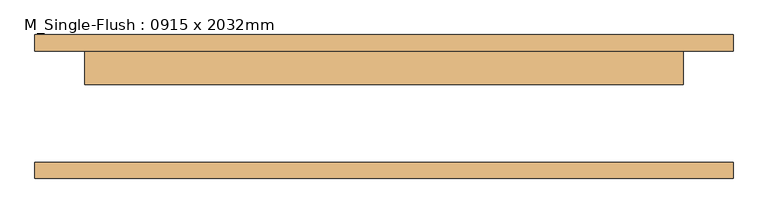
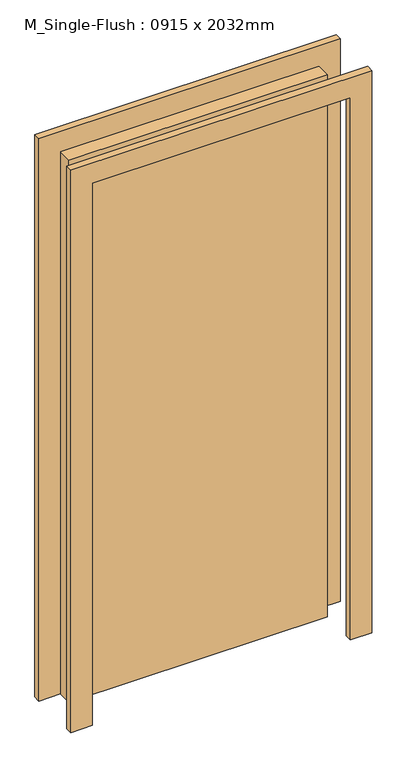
"""IFC4 building model written with IfcOpenShell, lengths in millimetres: door geometry, M_Single-Flush : 0915 x 2032mm."""

import ifcopenshell
import ifcopenshell.guid

model = None  # the IFC model being written
_history = None  # IfcOwnerHistory: only IFC2X3 demands one
_inside = {}  # id of a spatial element -> (the spatial element, [elements in it])
_under = {}  # id of a project, library or spatial element -> (it, [spatial elements below it])
_declared = {}  # id of a project -> (the project, [libraries it declares])
_typed = {}  # id of a type object -> (the type object, [elements of that type])
_made_of = {}  # id of a material, layer set ... -> (it, [elements and type objects made of it])


def new_model(schema):
    """Start an empty IFC model of exactly this schema.

    Asked for "IFC4X3", IfcOpenShell would pick the latest addendum, in which some entities
    have other attributes; the version numbers below select the first issue.
    IFC2X3 requires an IfcOwnerHistory on every rooted entity: one is made here for all.
    """
    global model, _history
    if schema == "IFC4X3":
        model = ifcopenshell.file(schema_version=(4, 3, 0, 0))
    else:
        model = ifcopenshell.file(schema=schema)
    _inside.clear()
    _under.clear()
    _declared.clear()
    _typed.clear()
    _made_of.clear()
    _history = None
    if model.schema == "IFC2X3":
        org = make("IfcOrganization", Name="unknown")
        user = make(
            "IfcPersonAndOrganization",
            ThePerson=make("IfcPerson", FamilyName="unknown"),
            TheOrganization=org,
        )
        app = make(
            "IfcApplication",
            ApplicationDeveloper=org,
            Version="unknown",
            ApplicationFullName="unknown",
            ApplicationIdentifier="unknown",
        )
        _history = make(
            "IfcOwnerHistory",
            OwningUser=user,
            OwningApplication=app,
            ChangeAction="ADDED",
            CreationDate=0,
        )
    return model


def make(cls, **values):
    """One entity of the class cls with the attributes given. An attribute that is None is left unset."""
    return model.create_entity(
        cls, **{name: value for name, value in values.items() if value is not None}
    )


def rooted(cls, **values):
    """An entity with a GlobalId (a new one), such as an element, a storey or a relation."""
    return make(cls, GlobalId=ifcopenshell.guid.new(), OwnerHistory=_history, **values)


def si_unit(unit_type, name, prefix=None):
    """IfcSIUnit, for example si_unit("LENGTHUNIT", "METRE", prefix="MILLI")."""
    return make("IfcSIUnit", UnitType=unit_type, Prefix=prefix, Name=name)


def assignment(units):
    """IfcUnitAssignment: the units of a project."""
    return None if units is None else make("IfcUnitAssignment", Units=units)


def point(xyz):
    """IfcCartesianPoint."""
    return None if xyz is None else make("IfcCartesianPoint", Coordinates=xyz)


def direction(xyz):
    """IfcDirection."""
    return None if xyz is None else make("IfcDirection", DirectionRatios=xyz)


def frame(location, z_axis=None, x_axis=None):
    """IfcAxis2Placement3D, a coordinate frame: its origin and axes. An axis left out is left unset."""
    return make(
        "IfcAxis2Placement3D",
        Location=point(location),
        Axis=direction(z_axis),
        RefDirection=direction(x_axis),
    )


def origin():
    """The frame at (0, 0, 0) with its axes left unset."""
    return frame((0.0, 0.0, 0.0))


def origin_with_axes():
    """The frame at (0, 0, 0) with the z axis (0, 0, 1) and the x axis (1, 0, 0) written out."""
    return frame((0.0, 0.0, 0.0), z_axis=(0.0, 0.0, 1.0), x_axis=(1.0, 0.0, 0.0))


def place(relative_to, where):
    """IfcLocalPlacement: puts the frame where relative to a parent placement (None: the world)."""
    return make(
        "IfcLocalPlacement", PlacementRelTo=relative_to, RelativePlacement=where
    )


def context(
    kind, dimensions, precision=None, world=None, true_north=None, identifier=None
):
    """IfcGeometricRepresentationContext, for example the 3D "Model" context."""
    return make(
        "IfcGeometricRepresentationContext",
        ContextIdentifier=identifier,
        ContextType=kind,
        CoordinateSpaceDimension=dimensions,
        Precision=precision,
        WorldCoordinateSystem=world,
        TrueNorth=true_north,
    )


def project(units=None, contexts=None):
    """IfcProject with its units and contexts."""
    return rooted(
        "IfcProject",
        Name="project",
        RepresentationContexts=contexts,
        UnitsInContext=assignment(units),
    )


def spatial(cls, under=None, at=None, **own):
    """A site, building, storey or space (cls), placed at a placement, below another one or the project."""
    s = rooted(cls, ObjectPlacement=at, **own)
    if under is not None:
        _under.setdefault(under.id(), (under, []))[1].append(s)
    return s


def polyline(points):
    """IfcPolyline through the points."""
    return make("IfcPolyline", Points=[point(p) for p in points])


def outline(outer, holes=None, kind="AREA"):
    """IfcArbitraryClosedProfileDef: a profile drawn as a closed curve; with holes, ...WithVoids."""
    if holes is None:
        return make("IfcArbitraryClosedProfileDef", ProfileType=kind, OuterCurve=outer)
    return make(
        "IfcArbitraryProfileDefWithVoids",
        ProfileType=kind,
        OuterCurve=outer,
        InnerCurves=holes,
    )


def extrude(swept, where, along, depth):
    """IfcExtrudedAreaSolid: the profile swept, set in the frame where, extruded along a direction by depth."""
    return make(
        "IfcExtrudedAreaSolid",
        SweptArea=swept,
        Position=where,
        ExtrudedDirection=direction(along),
        Depth=depth,
    )


def shape(context_of_items, identifier, shape_type, items):
    """IfcShapeRepresentation: the items that make up one representation, for example the "Body"."""
    return make(
        "IfcShapeRepresentation",
        ContextOfItems=context_of_items,
        RepresentationIdentifier=identifier,
        RepresentationType=shape_type,
        Items=items,
    )


def source(mapping_origin, context_of_items, identifier, shape_type, items):
    """IfcRepresentationMap: a shape defined once, which mapped items show again and again."""
    return make(
        "IfcRepresentationMap",
        MappingOrigin=mapping_origin,
        MappedRepresentation=shape(context_of_items, identifier, shape_type, items),
    )


def transform(
    local_origin,
    x_axis=None,
    y_axis=None,
    z_axis=None,
    scale=None,
    scale2=None,
    scale3=None,
    uniform=True,
):
    """IfcCartesianTransformationOperator3D, or its non-uniform kind. x_axis, y_axis, z_axis: its Axis1, 2, 3."""
    if uniform:
        return make(
            "IfcCartesianTransformationOperator3D",
            Axis1=direction(x_axis),
            Axis2=direction(y_axis),
            LocalOrigin=point(local_origin),
            Scale=scale,
            Axis3=direction(z_axis),
        )
    return make(
        "IfcCartesianTransformationOperator3DnonUniform",
        Axis1=direction(x_axis),
        Axis2=direction(y_axis),
        LocalOrigin=point(local_origin),
        Scale=scale,
        Axis3=direction(z_axis),
        Scale2=scale2,
        Scale3=scale3,
    )


def mapped(mapping_source, mapping_target):
    """IfcMappedItem: shows the shape of a source again, moved by a transform."""
    return make(
        "IfcMappedItem", MappingSource=mapping_source, MappingTarget=mapping_target
    )


def made_of(thing, what):
    """Note that an element or type object is made of a material, layer set ...; save() writes the relation."""
    if what is not None:
        _made_of.setdefault(what.id(), (what, []))[1].append(thing)
    return thing


def element(
    cls,
    number,
    at=None,
    inside=None,
    cuts=None,
    type_object=None,
    material=None,
    context=None,
    identifier="Body",
    shape_type=None,
    held_by="IfcProductDefinitionShape",
    body=None,
    shapes=None,
    **own,
):
    """One element of the class cls, such as IfcWall. Its Tag is "e" and its number.

    at: its placement. inside: the storey or other place that contains it. cuts: it is an
    opening in that element (IfcRelVoidsElement). A single representation is given by context,
    identifier, shape_type and body (its items); several are given by shapes. held_by: the class
    of the entity that holds the representations. save() writes the other relations.
    """
    e = rooted(cls, Tag="e%d" % number, ObjectPlacement=at, **own)
    if body is not None:
        shapes = [shape(context, identifier, shape_type, body)]
    if shapes is not None:
        e.Representation = make(held_by, Representations=shapes)
    if inside is not None:
        _inside.setdefault(inside.id(), (inside, []))[1].append(e)
    if cuts is not None:
        rooted(
            "IfcRelVoidsElement", RelatingBuildingElement=cuts, RelatedOpeningElement=e
        )
    if type_object is not None:
        _typed.setdefault(type_object.id(), (type_object, []))[1].append(e)
    return made_of(e, material)


def aggregate(whole, parts):
    """IfcRelAggregates: a whole, such as a stair, and the parts it consists of."""
    return rooted("IfcRelAggregates", RelatingObject=whole, RelatedObjects=parts)


def save(model, path):
    """Write the relations noted so far, then the file.

    IfcRelAggregates (storeys below a building ...), IfcRelContainedInSpatialStructure (elements
    in a storey), IfcRelDefinesByType, IfcRelAssociatesMaterial and IfcRelDeclares: one each for
    every whole, place, type object, material and project.
    """
    for whole, parts in _under.values():
        aggregate(whole, parts)
    for where, things in _inside.values():
        rooted(
            "IfcRelContainedInSpatialStructure",
            RelatedElements=things,
            RelatingStructure=where,
        )
    for kind, things in _typed.values():
        rooted("IfcRelDefinesByType", RelatedObjects=things, RelatingType=kind)
    for what, things in _made_of.values():
        rooted("IfcRelAssociatesMaterial", RelatedObjects=things, RelatingMaterial=what)
    for by, libraries in _declared.values():
        rooted("IfcRelDeclares", RelatingContext=by, RelatedDefinitions=libraries)
    model.write(path)


def m_single_flush_0915_x_2032mm_0754afa6(model_context):
    return source(origin(), model_context, "Body", "SweptSolid", [
        extrude(outline(polyline([(2108.0, -533.5), (0.0, -533.5), (0.0, -457.5), (2032.0, -457.5), (2032.0, 457.5), (0.0, 457.5), (0.0, 533.5), (2108.0, 533.5), (2108.0, -533.5)])), frame((0.0, 85.0, 0.0), z_axis=(0.0, 1.0, 0.0), x_axis=(0.0, 0.0, 1.0)), (0.0, 0.0, 1.0), 25.0),
        extrude(outline(polyline([(2108.0, 533.5), (2108.0, -533.5), (0.0, -533.5), (0.0, -457.5), (2032.0, -457.5), (2032.0, 457.5), (0.0, 457.5), (0.0, 533.5), (2108.0, 533.5)])), frame((0.0, -110.0, 0.0), z_axis=(0.0, 1.0, 0.0), x_axis=(0.0, 0.0, 1.0)), (0.0, 0.0, 1.0), 25.0),
        extrude(outline(polyline([(457.5, 34.0), (-457.5, 34.0), (-457.5, 85.0), (457.5, 85.0), (457.5, 34.0)])), origin_with_axes(), (0.0, 0.0, 1.0), 2032.0),
    ])


if __name__ == "__main__":
    model = new_model("IFC4")
    model_context = context("Model", 3, world=origin())
    ifc_project = project(units=[si_unit("LENGTHUNIT", "METRE", prefix="MILLI")], contexts=[model_context])
    site = spatial("IfcSite", under=ifc_project)
    building = spatial("IfcBuilding", under=site)
    placement = place(None, origin())
    m_single_flush_0915_x_2032mm_shape = m_single_flush_0915_x_2032mm_0754afa6(model_context)
    element("IfcDoor", 1, ObjectType="M_Single-Flush : 0915 x 2032mm", at=placement, inside=building, context=model_context, shape_type="MappedRepresentation", body=[
        mapped(m_single_flush_0915_x_2032mm_shape, transform((0.0, 0.0, 0.0), x_axis=(1.0, 0.0, 0.0), y_axis=(0.0, 1.0, 0.0), z_axis=(0.0, 0.0, 1.0))),
    ])
    save(model, "model.ifc")
